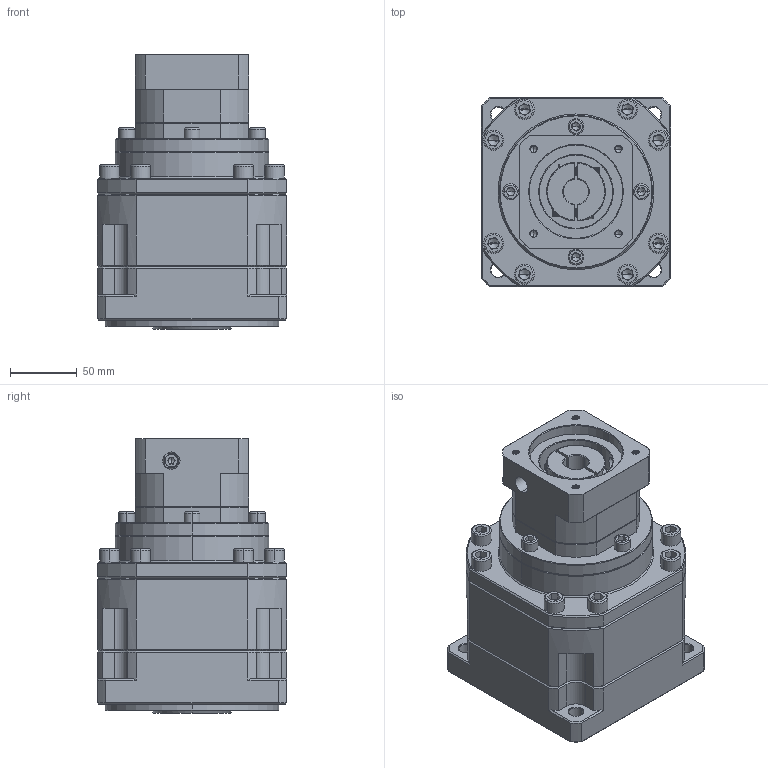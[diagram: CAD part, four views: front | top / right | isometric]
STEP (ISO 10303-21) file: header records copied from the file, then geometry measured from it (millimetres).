
FILE_DESCRIPTION (( 'STEP AP214' ), '1' );
FILE_NAME ('ZB142A-K35-L3-19-70-90-M6.step', '2023-03-18T08:17:28', ( '' ), ( '' ), 'SwSTEP 2.0', 'SolidWorks 2016', '' );
FILE_SCHEMA (( 'AUTOMOTIVE_DESIGN' ));
Length unit declared in the file: millimetre
Products named in the file (1): ZB142A-K35-L3-19-70-90-M6
Bounding box: 142 x 142 x 206.2 mm (x, y, z)
Volume: 2614823 mm3; surface area: 193551.9 mm2
Topology: 5 solids, 5 shells, 2173 faces, 5593 edges, 3532 vertices
Faces by surface type: plane 1039, cylinder 429, cone 354, bspline 307, torus 44
Entity records: 110357 total; most frequent: CARTESIAN_POINT 36132, ORIENTED_EDGE 11082, DIRECTION 9359, EDGE_CURVE 5541, VERTEX_POINT 3532, LINE 3517, VECTOR 3517, AXIS2_PLACEMENT_3D 2921
